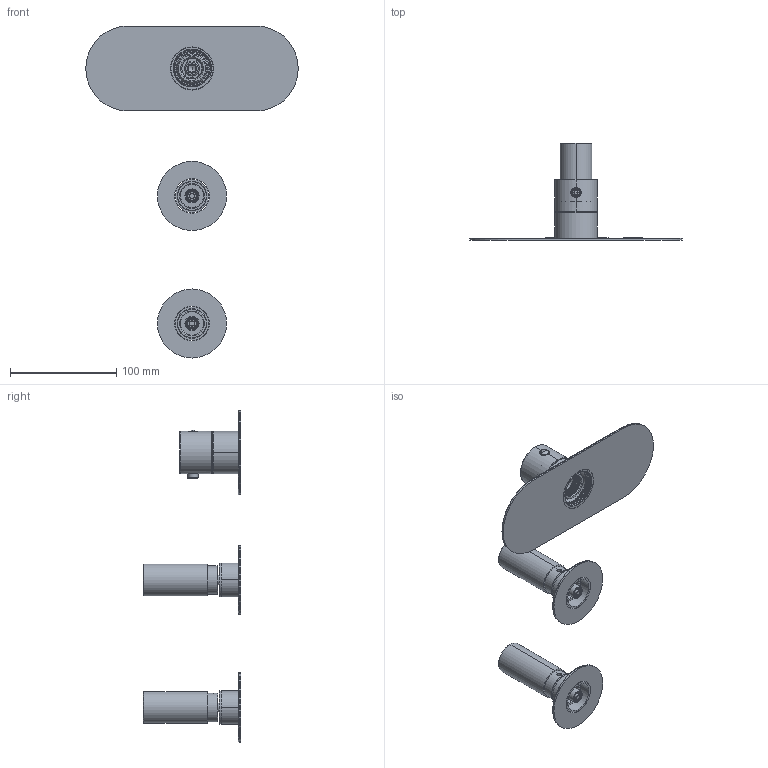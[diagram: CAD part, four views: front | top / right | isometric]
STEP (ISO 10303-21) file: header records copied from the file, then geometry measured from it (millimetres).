
FILE_DESCRIPTION((''),'2;1');
FILE_NAME('12760V2NP_SW0001','2026-09-17T14:17:42',('carloff'),(''),'CREO PARAMETRIC BY PTC INC, 2025443','CREO PARAMETRIC BY PTC INC, 2025443','');
FILE_SCHEMA(('CONFIG_CONTROL_DESIGN'));
Products named in the file (1): 12760V2NP_SW0001
Bounding box: 200 x 91.5 x 312.5 mm (x, y, z)
Volume: 181475.9 mm3; surface area: 97891.2 mm2
Topology: 10 solids, 10 shells, 2189 faces, 6379 edges, 4164 vertices
Faces by surface type: plane 1367, cylinder 478, torus 103, cone 99, bspline 70, extrusion 62, sphere 10
Entity records: 98536 total; most frequent: CARTESIAN_POINT 42229, ORIENTED_EDGE 12742, DIRECTION 10416, EDGE_CURVE 6371, VERTEX_POINT 4162, VECTOR 3804, LINE 3742, AXIS2_PLACEMENT_3D 3306
